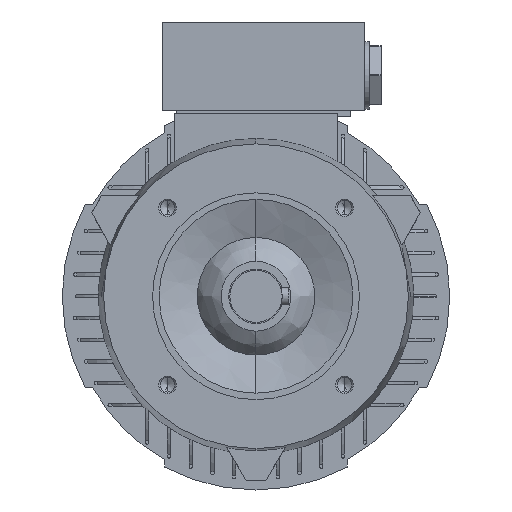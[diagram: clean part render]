
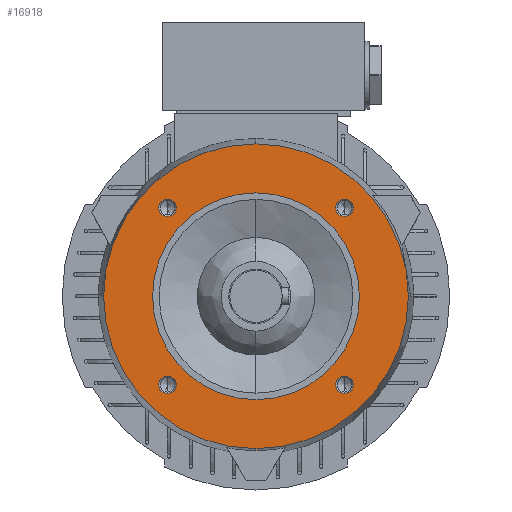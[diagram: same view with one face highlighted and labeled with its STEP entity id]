
A CAD part, left-side view. The second image highlights one B-rep face of the part: STEP entity #16918.
In plain terms, the highlighted planar face has unit normal (-1, 0, 0).
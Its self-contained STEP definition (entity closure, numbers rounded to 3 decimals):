
#706 = CARTESIAN_POINT ( 'NONE',  ( -34.5, 0., 0. ) ) ;
#707 = DIRECTION ( 'NONE',  ( 1., 0., 0. ) ) ;
#708 = DIRECTION ( 'NONE',  ( 0., 0., -1. ) ) ;
#1034 = CARTESIAN_POINT ( 'NONE',  ( -34.5, -40.659, -36.659 ) ) ;
#1039 = CARTESIAN_POINT ( 'NONE',  ( -34.5, 40.659, -44.659 ) ) ;
#1041 = CARTESIAN_POINT ( 'NONE',  ( -34.5, -40.659, -44.659 ) ) ;
#1651 = AXIS2_PLACEMENT_3D ( 'NONE', #10395, #10387, #10396 ) ;
#2000 = CIRCLE ( 'NONE', #6717, 70. ) ;
#2528 = CARTESIAN_POINT ( 'NONE',  ( -34.5, 0., -70. ) ) ;
#4945 = AXIS2_PLACEMENT_3D ( 'NONE', #18027, #18029, #18031 ) ;
#4946 = AXIS2_PLACEMENT_3D ( 'NONE', #18035, #18036, #18037 ) ;
#4947 = AXIS2_PLACEMENT_3D ( 'NONE', #18039, #18041, #18043 ) ;
#4948 = AXIS2_PLACEMENT_3D ( 'NONE', #18047, #18049, #18050 ) ;
#4949 = AXIS2_PLACEMENT_3D ( 'NONE', #18055, #18057, #18059 ) ;
#4969 = AXIS2_PLACEMENT_3D ( 'NONE', #16663, #16664, #16665 ) ;
#4976 = AXIS2_PLACEMENT_3D ( 'NONE', #16693, #16694, #16695 ) ;
#4980 = AXIS2_PLACEMENT_3D ( 'NONE', #12278, #12279, #12280 ) ;
#4986 = AXIS2_PLACEMENT_3D ( 'NONE', #12316, #12317, #12318 ) ;
#4992 = AXIS2_PLACEMENT_3D ( 'NONE', #12349, #12350, #12351 ) ;
#5034 = AXIS2_PLACEMENT_3D ( 'NONE', #706, #707, #708 ) ;
#6717 = AXIS2_PLACEMENT_3D ( 'NONE', #13540, #13541, #13542 ) ;
#7418 = EDGE_CURVE ( 'NONE', #9186, #9176, #2000, .T. ) ;
#8774 = EDGE_LOOP ( 'NONE', ( #22208, #22209 ) ) ;
#8780 = EDGE_LOOP ( 'NONE', ( #19424, #19425 ) ) ;
#9052 = VERTEX_POINT ( 'NONE', #13245 ) ;
#9057 = VERTEX_POINT ( 'NONE', #13248 ) ;
#9058 = VERTEX_POINT ( 'NONE', #13249 ) ;
#9060 = VERTEX_POINT ( 'NONE', #13251 ) ;
#9066 = VERTEX_POINT ( 'NONE', #13257 ) ;
#9067 = VERTEX_POINT ( 'NONE', #13258 ) ;
#9073 = VERTEX_POINT ( 'NONE', #13264 ) ;
#9176 = VERTEX_POINT ( 'NONE', #13297 ) ;
#9186 = VERTEX_POINT ( 'NONE', #2528 ) ;
#10387 = DIRECTION ( 'NONE',  ( -1., 0., 0. ) ) ;
#10391 = PLANE ( 'NONE',  #1651 ) ;
#10395 = CARTESIAN_POINT ( 'NONE',  ( -34.5, 0., 58.75 ) ) ;
#10396 = DIRECTION ( 'NONE',  ( 0., 0., 1. ) ) ;
#11152 = CIRCLE ( 'NONE', #5034, 70. ) ;
#11609 = EDGE_LOOP ( 'NONE', ( #19426, #19427 ) ) ;
#11610 = EDGE_LOOP ( 'NONE', ( #22206, #22207 ) ) ;
#11611 = EDGE_LOOP ( 'NONE', ( #22204, #22205 ) ) ;
#11758 = EDGE_LOOP ( 'NONE', ( #19422, #19423 ) ) ;
#12278 = CARTESIAN_POINT ( 'NONE',  ( -34.5, -40.659, 40.659 ) ) ;
#12279 = DIRECTION ( 'NONE',  ( 1., 0., 0. ) ) ;
#12280 = DIRECTION ( 'NONE',  ( 0., 0., 1. ) ) ;
#12316 = CARTESIAN_POINT ( 'NONE',  ( -34.5, 40.659, 40.659 ) ) ;
#12317 = DIRECTION ( 'NONE',  ( 1., 0., 0. ) ) ;
#12318 = DIRECTION ( 'NONE',  ( 0., 0., 1. ) ) ;
#12349 = CARTESIAN_POINT ( 'NONE',  ( -34.5, -40.659, -40.659 ) ) ;
#12350 = DIRECTION ( 'NONE',  ( 1., 0., 0. ) ) ;
#12351 = DIRECTION ( 'NONE',  ( 0., 0., 1. ) ) ;
#12715 = EDGE_CURVE ( 'NONE', #9066, #9057, #21123, .T. ) ;
#12716 = EDGE_CURVE ( 'NONE', #9073, #9067, #21117, .T. ) ;
#12717 = EDGE_CURVE ( 'NONE', #9058, #9052, #21125, .T. ) ;
#12718 = EDGE_CURVE ( 'NONE', #14454, #9060, #21126, .T. ) ;
#12720 = EDGE_CURVE ( 'NONE', #14456, #14449, #21129, .T. ) ;
#13245 = CARTESIAN_POINT ( 'NONE',  ( -34.5, 40.659, 44.659 ) ) ;
#13248 = CARTESIAN_POINT ( 'NONE',  ( -34.5, 0., -47.5 ) ) ;
#13249 = CARTESIAN_POINT ( 'NONE',  ( -34.5, 40.659, 36.659 ) ) ;
#13251 = CARTESIAN_POINT ( 'NONE',  ( -34.5, 40.659, -36.659 ) ) ;
#13257 = CARTESIAN_POINT ( 'NONE',  ( -34.5, 0., 47.5 ) ) ;
#13258 = CARTESIAN_POINT ( 'NONE',  ( -34.5, -40.659, 44.659 ) ) ;
#13264 = CARTESIAN_POINT ( 'NONE',  ( -34.5, -40.659, 36.659 ) ) ;
#13297 = CARTESIAN_POINT ( 'NONE',  ( -34.5, 0., 70. ) ) ;
#13540 = CARTESIAN_POINT ( 'NONE',  ( -34.5, 0., 0. ) ) ;
#13541 = DIRECTION ( 'NONE',  ( 1., 0., 0. ) ) ;
#13542 = DIRECTION ( 'NONE',  ( 0., 0., -1. ) ) ;
#13868 = EDGE_CURVE ( 'NONE', #9060, #14454, #21206, .T. ) ;
#13880 = EDGE_CURVE ( 'NONE', #9057, #9066, #21222, .T. ) ;
#13886 = EDGE_CURVE ( 'NONE', #9067, #9073, #21229, .T. ) ;
#13902 = EDGE_CURVE ( 'NONE', #9052, #9058, #21256, .T. ) ;
#13915 = EDGE_CURVE ( 'NONE', #14449, #14456, #21278, .T. ) ;
#13998 = EDGE_CURVE ( 'NONE', #9176, #9186, #11152, .T. ) ;
#14449 = VERTEX_POINT ( 'NONE', #1034 ) ;
#14454 = VERTEX_POINT ( 'NONE', #1039 ) ;
#14456 = VERTEX_POINT ( 'NONE', #1041 ) ;
#15987 = FACE_BOUND ( 'NONE', #11609, .T. ) ;
#16006 = FACE_BOUND ( 'NONE', #11611, .T. ) ;
#16007 = FACE_BOUND ( 'NONE', #8774, .T. ) ;
#16008 = FACE_OUTER_BOUND ( 'NONE', #8780, .T. ) ;
#16009 = FACE_BOUND ( 'NONE', #11758, .T. ) ;
#16011 = FACE_BOUND ( 'NONE', #11610, .T. ) ;
#16663 = CARTESIAN_POINT ( 'NONE',  ( -34.5, 40.659, -40.659 ) ) ;
#16664 = DIRECTION ( 'NONE',  ( 1., 0., 0. ) ) ;
#16665 = DIRECTION ( 'NONE',  ( 0., 0., 1. ) ) ;
#16693 = CARTESIAN_POINT ( 'NONE',  ( -34.5, 0., 0. ) ) ;
#16694 = DIRECTION ( 'NONE',  ( 1., 0., 0. ) ) ;
#16695 = DIRECTION ( 'NONE',  ( 0., 0., 1. ) ) ;
#16918 = ADVANCED_FACE ( 'NONE', ( #16009, #16008, #15987, #16006, #16011, #16007 ), #10391, .T. ) ;
#18027 = CARTESIAN_POINT ( 'NONE',  ( -34.5, 0., 0. ) ) ;
#18029 = DIRECTION ( 'NONE',  ( 1., 0., 0. ) ) ;
#18031 = DIRECTION ( 'NONE',  ( 0., 0., 1. ) ) ;
#18035 = CARTESIAN_POINT ( 'NONE',  ( -34.5, -40.659, 40.659 ) ) ;
#18036 = DIRECTION ( 'NONE',  ( 1., 0., 0. ) ) ;
#18037 = DIRECTION ( 'NONE',  ( 0., 0., 1. ) ) ;
#18039 = CARTESIAN_POINT ( 'NONE',  ( -34.5, 40.659, 40.659 ) ) ;
#18041 = DIRECTION ( 'NONE',  ( 1., 0., 0. ) ) ;
#18043 = DIRECTION ( 'NONE',  ( 0., 0., 1. ) ) ;
#18047 = CARTESIAN_POINT ( 'NONE',  ( -34.5, 40.659, -40.659 ) ) ;
#18049 = DIRECTION ( 'NONE',  ( 1., 0., 0. ) ) ;
#18050 = DIRECTION ( 'NONE',  ( 0., 0., 1. ) ) ;
#18055 = CARTESIAN_POINT ( 'NONE',  ( -34.5, -40.659, -40.659 ) ) ;
#18057 = DIRECTION ( 'NONE',  ( 1., 0., 0. ) ) ;
#18059 = DIRECTION ( 'NONE',  ( 0., 0., 1. ) ) ;
#19422 = ORIENTED_EDGE ( 'NONE', *, *, #12715, .T. ) ;
#19423 = ORIENTED_EDGE ( 'NONE', *, *, #13880, .T. ) ;
#19424 = ORIENTED_EDGE ( 'NONE', *, *, #7418, .F. ) ;
#19425 = ORIENTED_EDGE ( 'NONE', *, *, #13998, .F. ) ;
#19426 = ORIENTED_EDGE ( 'NONE', *, *, #13886, .T. ) ;
#19427 = ORIENTED_EDGE ( 'NONE', *, *, #12716, .T. ) ;
#21117 = CIRCLE ( 'NONE', #4946, 4. ) ;
#21123 = CIRCLE ( 'NONE', #4945, 47.5 ) ;
#21125 = CIRCLE ( 'NONE', #4947, 4. ) ;
#21126 = CIRCLE ( 'NONE', #4948, 4. ) ;
#21129 = CIRCLE ( 'NONE', #4949, 4. ) ;
#21206 = CIRCLE ( 'NONE', #4969, 4. ) ;
#21222 = CIRCLE ( 'NONE', #4976, 47.5 ) ;
#21229 = CIRCLE ( 'NONE', #4980, 4. ) ;
#21256 = CIRCLE ( 'NONE', #4986, 4. ) ;
#21278 = CIRCLE ( 'NONE', #4992, 4. ) ;
#22204 = ORIENTED_EDGE ( 'NONE', *, *, #13902, .T. ) ;
#22205 = ORIENTED_EDGE ( 'NONE', *, *, #12717, .T. ) ;
#22206 = ORIENTED_EDGE ( 'NONE', *, *, #13868, .T. ) ;
#22207 = ORIENTED_EDGE ( 'NONE', *, *, #12718, .T. ) ;
#22208 = ORIENTED_EDGE ( 'NONE', *, *, #13915, .T. ) ;
#22209 = ORIENTED_EDGE ( 'NONE', *, *, #12720, .T. ) ;
